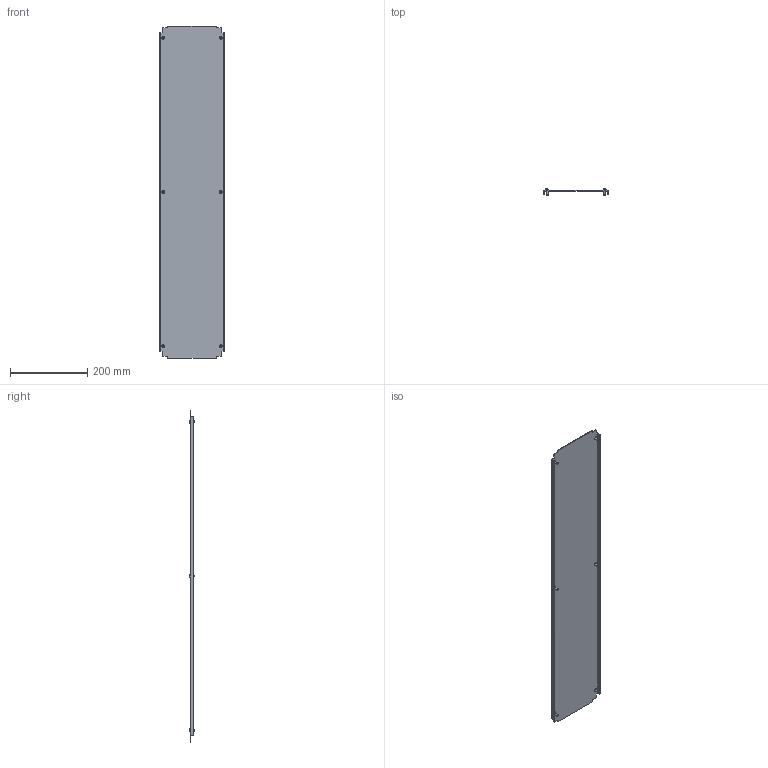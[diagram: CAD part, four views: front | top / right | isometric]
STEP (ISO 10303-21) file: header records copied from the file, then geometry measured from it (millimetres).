
FILE_DESCRIPTION (( 'STEP AP203' ), '1' );
FILE_NAME ('R5N1BP310.STEP', '2025-02-21T13:47:56', ( '' ), ( '' ), 'SwSTEP 2.0', 'SolidWorks 2022', '' );
FILE_SCHEMA (( 'CONFIG_CONTROL_DESIGN' ));
Length unit declared in the file: millimetre
Products named in the file (3): M5x12 DIN 7500 C Torx Zinc_stright; R5N1BP310; RB.1923.00.00.0_-03
Assembly tree (7 placements, depth 2):
  R5N1BP310
    RB.1923.00.00.0_-03
    M5x12 DIN 7500 C Torx Zinc_stright  x6
Bounding box: 168 x 15.56 x 862 mm (x, y, z)
Volume: 236836 mm3; surface area: 318269.4 mm2
Topology: 7 solids, 7 shells, 166 faces, 384 edges, 238 vertices
Faces by surface type: plane 106, cylinder 24, torus 12, cone 12, sphere 6, bspline 6
Full cylindrical faces by diameter (mm): 5 x6, 9.5 x6
Entity records: 3297 total; most frequent: CARTESIAN_POINT 674, ORIENTED_EDGE 448, DIRECTION 444, EDGE_CURVE 224, LINE 180, VECTOR 180, VERTEX_POINT 150, AXIS2_PLACEMENT_3D 132
